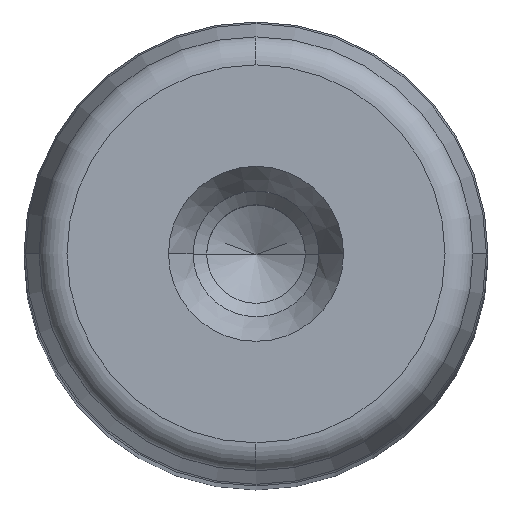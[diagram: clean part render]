
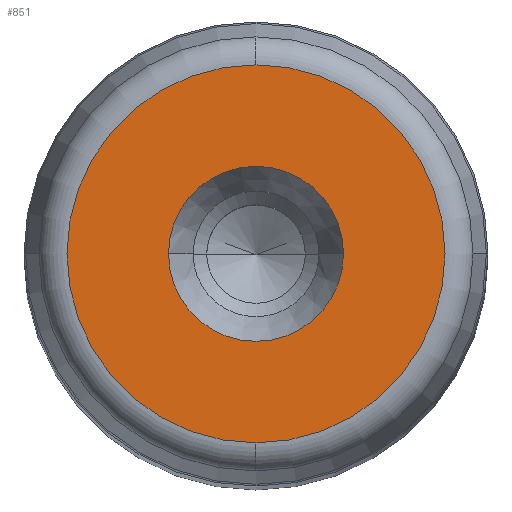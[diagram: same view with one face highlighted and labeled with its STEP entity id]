
A CAD part, top view. The second image highlights one B-rep face of the part: STEP entity #851.
In plain terms, the highlighted planar face has unit normal (0, 0, 1) as drawn and (0, 1, 0) by its records, which use the part's own axes.
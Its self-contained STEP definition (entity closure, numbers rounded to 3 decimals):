
#281=CARTESIAN_POINT('',(9.05,250.0,0.0));
#282=VERTEX_POINT('',#281);
#289=CARTESIAN_POINT('',(-9.05,250.0,0.));
#290=VERTEX_POINT('',#289);
#291=CARTESIAN_POINT('',(0.0,250.0,0.0));
#292=DIRECTION('',(0.0,1.0,0.0));
#293=DIRECTION('',(1.0,0.0,0.0));
#294=AXIS2_PLACEMENT_3D('',#291,#292,#293);
#295=CIRCLE('',#294,9.05);
#296=EDGE_CURVE('',#282,#290,#295,.T.);
#313=CARTESIAN_POINT('',(0.0,250.0,19.554));
#314=VERTEX_POINT('',#313);
#324=CARTESIAN_POINT('',(0.,250.0,-19.554));
#325=VERTEX_POINT('',#324);
#326=CARTESIAN_POINT('',(0.0,250.0,0.0));
#327=DIRECTION('',(0.0,1.0,0.0));
#328=DIRECTION('',(1.0,0.0,0.0));
#329=AXIS2_PLACEMENT_3D('',#326,#327,#328);
#330=CIRCLE('',#329,19.554);
#331=EDGE_CURVE('',#325,#314,#330,.T.);
#812=CARTESIAN_POINT('',(19.554,250.0,0.0));
#813=VERTEX_POINT('',#812);
#814=CARTESIAN_POINT('',(0.0,250.0,0.0));
#815=DIRECTION('',(0.0,1.0,0.0));
#816=DIRECTION('',(1.0,0.0,0.0));
#817=AXIS2_PLACEMENT_3D('',#814,#815,#816);
#818=CIRCLE('',#817,19.554);
#819=EDGE_CURVE('',#813,#325,#818,.T.);
#821=CARTESIAN_POINT('',(0.0,250.0,0.0));
#822=DIRECTION('',(0.0,1.0,0.0));
#823=DIRECTION('',(1.0,0.0,0.0));
#824=AXIS2_PLACEMENT_3D('',#821,#822,#823);
#825=CIRCLE('',#824,19.554);
#826=EDGE_CURVE('',#314,#813,#825,.T.);
#831=CARTESIAN_POINT('',(-21.51,250.0,-21.51));
#832=DIRECTION('',(0.0,1.0,0.0));
#833=DIRECTION('',(0.0,0.0,1.0));
#834=AXIS2_PLACEMENT_3D('',#831,#832,#833);
#835=PLANE('',#834);
#836=ORIENTED_EDGE('',*,*,#819,.T.);
#837=ORIENTED_EDGE('',*,*,#331,.T.);
#838=ORIENTED_EDGE('',*,*,#826,.T.);
#839=EDGE_LOOP('',(#836,#837,#838));
#840=FACE_OUTER_BOUND('',#839,.T.);
#841=ORIENTED_EDGE('',*,*,#296,.F.);
#842=CARTESIAN_POINT('',(0.0,250.0,0.0));
#843=DIRECTION('',(0.0,1.0,0.0));
#844=DIRECTION('',(1.0,0.0,0.0));
#845=AXIS2_PLACEMENT_3D('',#842,#843,#844);
#846=CIRCLE('',#845,9.05);
#847=EDGE_CURVE('',#290,#282,#846,.T.);
#848=ORIENTED_EDGE('',*,*,#847,.F.);
#849=EDGE_LOOP('',(#841,#848));
#850=FACE_BOUND('',#849,.T.);
#851=ADVANCED_FACE('',(#840,#850),#835,.T.);
